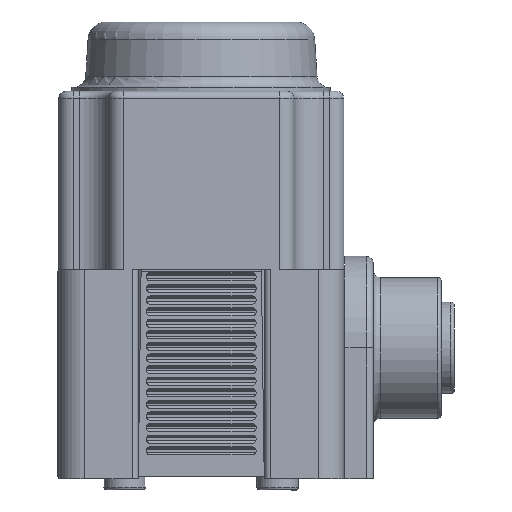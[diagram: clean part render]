
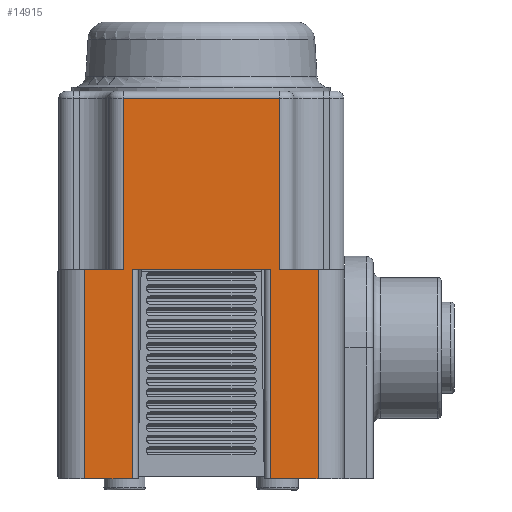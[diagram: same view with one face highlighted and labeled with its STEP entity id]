
A CAD part, left-side view. The second image highlights one B-rep face of the part: STEP entity #14915.
In plain terms, the highlighted planar face has unit normal (-1, 0, 0).
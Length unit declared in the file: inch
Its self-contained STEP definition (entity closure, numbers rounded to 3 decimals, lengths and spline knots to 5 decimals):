
#874=PLANE('',#16469);
#1658=FACE_OUTER_BOUND('',#2559,.T.);
#2559=EDGE_LOOP('',(#12884,#12885,#12886,#12887,#12888,#12889,#12890,#12891,
#12892,#12893,#12894,#12895));
#4261=LINE('',#27227,#5262);
#4274=LINE('',#27297,#5275);
#4390=LINE('',#28870,#5391);
#4407=LINE('',#28929,#5408);
#4408=LINE('',#28933,#5409);
#4411=LINE('',#28952,#5412);
#4424=LINE('',#29028,#5425);
#4425=LINE('',#29032,#5426);
#4426=LINE('',#29033,#5427);
#4427=LINE('',#29035,#5428);
#4428=LINE('',#29037,#5429);
#4429=LINE('',#29038,#5430);
#5262=VECTOR('',#19923,0.3937);
#5275=VECTOR('',#20006,0.3937);
#5391=VECTOR('',#20316,0.3937);
#5408=VECTOR('',#20387,0.3937);
#5409=VECTOR('',#20392,0.3937);
#5412=VECTOR('',#20413,0.3937);
#5425=VECTOR('',#20514,0.3937);
#5426=VECTOR('',#20519,0.3937);
#5427=VECTOR('',#20520,0.3937);
#5428=VECTOR('',#20521,0.3937);
#5429=VECTOR('',#20522,0.3937);
#5430=VECTOR('',#20523,0.3937);
#6602=VERTEX_POINT('',#27219);
#6604=VERTEX_POINT('',#27225);
#6626=VERTEX_POINT('',#27295);
#6756=VERTEX_POINT('',#28867);
#6757=VERTEX_POINT('',#28869);
#6772=VERTEX_POINT('',#28928);
#6773=VERTEX_POINT('',#28932);
#6780=VERTEX_POINT('',#28950);
#6799=VERTEX_POINT('',#29027);
#6800=VERTEX_POINT('',#29031);
#6801=VERTEX_POINT('',#29034);
#6802=VERTEX_POINT('',#29036);
#8546=EDGE_CURVE('',#6604,#6602,#4261,.T.);
#8582=EDGE_CURVE('',#6626,#6604,#4274,.T.);
#8784=EDGE_CURVE('',#6757,#6756,#4390,.T.);
#8813=EDGE_CURVE('',#6772,#6602,#4407,.T.);
#8815=EDGE_CURVE('',#6773,#6772,#4408,.T.);
#8825=EDGE_CURVE('',#6626,#6780,#4411,.T.);
#8863=EDGE_CURVE('',#6799,#6757,#4424,.T.);
#8865=EDGE_CURVE('',#6800,#6780,#4425,.T.);
#8866=EDGE_CURVE('',#6799,#6800,#4426,.T.);
#8867=EDGE_CURVE('',#6801,#6756,#4427,.T.);
#8868=EDGE_CURVE('',#6801,#6802,#4428,.T.);
#8869=EDGE_CURVE('',#6802,#6773,#4429,.T.);
#12884=ORIENTED_EDGE('',*,*,#8546,.F.);
#12885=ORIENTED_EDGE('',*,*,#8582,.F.);
#12886=ORIENTED_EDGE('',*,*,#8825,.T.);
#12887=ORIENTED_EDGE('',*,*,#8865,.F.);
#12888=ORIENTED_EDGE('',*,*,#8866,.F.);
#12889=ORIENTED_EDGE('',*,*,#8863,.T.);
#12890=ORIENTED_EDGE('',*,*,#8784,.T.);
#12891=ORIENTED_EDGE('',*,*,#8867,.F.);
#12892=ORIENTED_EDGE('',*,*,#8868,.T.);
#12893=ORIENTED_EDGE('',*,*,#8869,.T.);
#12894=ORIENTED_EDGE('',*,*,#8815,.T.);
#12895=ORIENTED_EDGE('',*,*,#8813,.T.);
#14915=ADVANCED_FACE('',(#1658),#874,.T.);
#16469=AXIS2_PLACEMENT_3D('',#29030,#20517,#20518);
#19923=DIRECTION('',(0.,-1.,0.));
#20006=DIRECTION('',(0.,0.,1.));
#20316=DIRECTION('',(0.,-1.,0.));
#20387=DIRECTION('',(0.,0.,1.));
#20392=DIRECTION('',(0.,1.,0.));
#20413=DIRECTION('',(0.,1.,0.));
#20514=DIRECTION('',(0.,0.,1.));
#20517=DIRECTION('center_axis',(-1.,0.,0.));
#20518=DIRECTION('ref_axis',(0.,0.,1.));
#20519=DIRECTION('',(0.,0.,1.));
#20520=DIRECTION('',(0.,1.,0.));
#20521=DIRECTION('',(0.,0.,1.));
#20522=DIRECTION('',(0.,-1.,0.));
#20523=DIRECTION('',(0.,0.,1.));
#27219=CARTESIAN_POINT('',(-0.82018,-0.28584,0.6733));
#27225=CARTESIAN_POINT('',(-0.82018,0.38216,0.6733));
#27227=CARTESIAN_POINT('',(-0.82018,0.38216,0.6733));
#27295=CARTESIAN_POINT('',(-0.82018,0.38216,-0.0587));
#27297=CARTESIAN_POINT('',(-0.82018,0.38216,-0.0587));
#28867=CARTESIAN_POINT('',(-0.82018,-0.24584,-0.0587));
#28869=CARTESIAN_POINT('',(-0.82018,0.34216,-0.0587));
#28870=CARTESIAN_POINT('',(-0.82018,0.34216,-0.0587));
#28928=CARTESIAN_POINT('',(-0.82018,-0.28584,-0.0587));
#28929=CARTESIAN_POINT('',(-0.82018,-0.28584,-0.0587));
#28932=CARTESIAN_POINT('',(-0.82018,-0.45084,-0.0587));
#28933=CARTESIAN_POINT('',(-0.82018,-0.45084,-0.0587));
#28950=CARTESIAN_POINT('',(-0.82018,0.54716,-0.0587));
#28952=CARTESIAN_POINT('',(-0.82018,0.38216,-0.0587));
#29027=CARTESIAN_POINT('',(-0.82018,0.34216,-0.9527));
#29028=CARTESIAN_POINT('',(-0.82018,0.34216,-0.9527));
#29030=CARTESIAN_POINT('Origin',(-0.82018,-0.45123,
-0.1397));
#29031=CARTESIAN_POINT('',(-0.82018,0.54716,-0.9527));
#29032=CARTESIAN_POINT('',(-0.82018,0.54716,-0.9527));
#29033=CARTESIAN_POINT('',(-0.82018,0.34216,-0.9527));
#29034=CARTESIAN_POINT('',(-0.82018,-0.24584,-0.9527));
#29035=CARTESIAN_POINT('',(-0.82018,-0.24584,-0.9527));
#29036=CARTESIAN_POINT('',(-0.82018,-0.45084,-0.9527));
#29037=CARTESIAN_POINT('',(-0.82018,-0.24584,-0.9527));
#29038=CARTESIAN_POINT('',(-0.82018,-0.45084,-0.9527));
